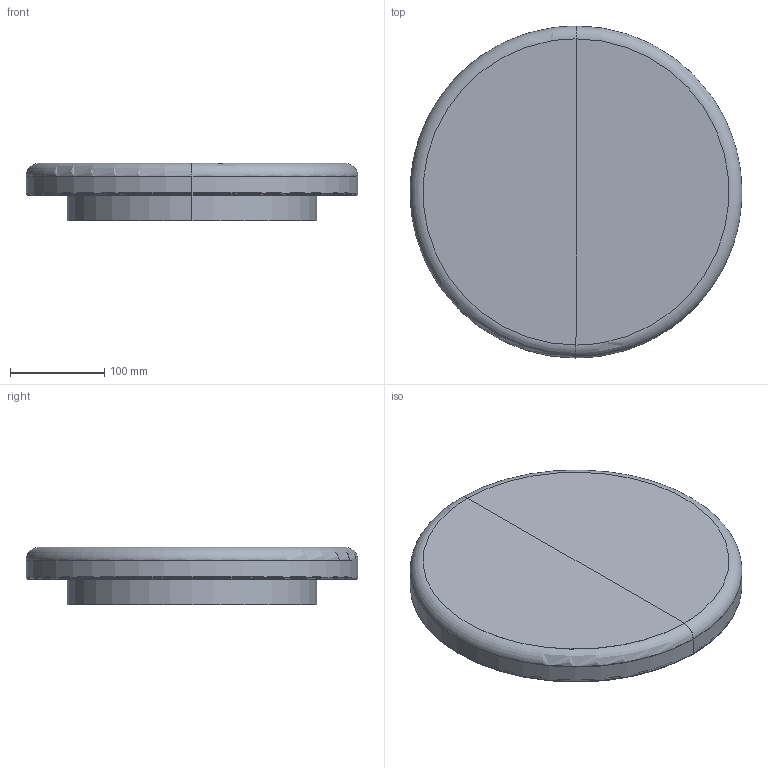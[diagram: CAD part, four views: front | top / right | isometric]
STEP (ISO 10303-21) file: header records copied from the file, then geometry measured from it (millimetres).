
FILE_DESCRIPTION(/* description */ (''),/* implementation_level */ '2;1');
FILE_NAME(/* name */ 'C:\Users\Franco Sartori E\Documents\FARO\DUPLICADO\Modelos\01_Digitalizados\2021\0_BOARD_TOU\03_Publicación\00_TOU.stp',/* time_stamp */ '2020-10-09T09:44:37+02:00',/* author */ ('Franco Sartori E'),/* organization */ (''),/* preprocessor_version */ 'ST-DEVELOPER v18.1',/* originating_system */ 'AutoCAD Mechanical',/* authorisation */ '');
FILE_SCHEMA (('AUTOMOTIVE_DESIGN { 1 0 10303 214 3 1 1 }'));
Length unit declared in the file: millimetre
Products named in the file (2): Product; 0_TOU_ - TOU-460615-Export
Assembly tree (1 placements, depth 2):
  Product
    0_TOU_ - TOU-460615-Export
Bounding box: 351.58 x 351.6 x 60.86 mm (x, y, z)
Volume: 374192.6 mm3; surface area: 577635.4 mm2
Topology: 2 solids, 2 shells, 34 faces, 64 edges, 34 vertices
Faces by surface type: plane 16, cylinder 12, torus 6
Entity records: 1498 total; most frequent: CARTESIAN_POINT 803, DIRECTION 134, ORIENTED_EDGE 128, EDGE_CURVE 64, AXIS2_PLACEMENT_3D 55, FACE_OUTER_BOUND 34, EDGE_LOOP 34, VERTEX_POINT 34
